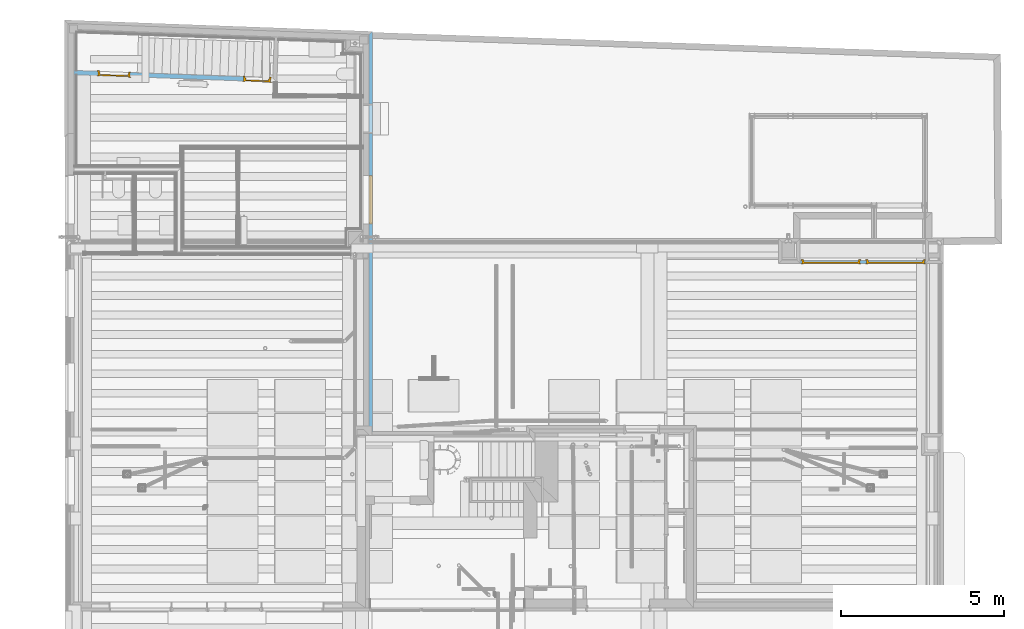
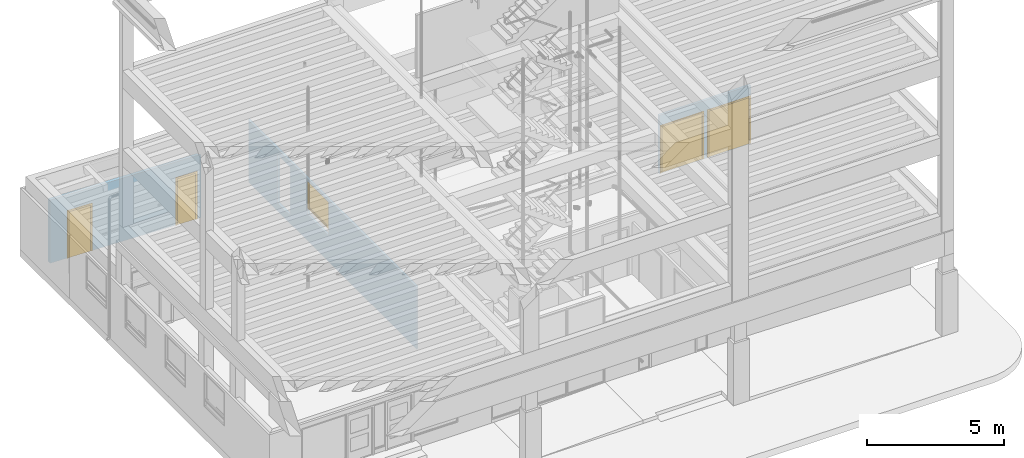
# One storey, part 24 of 106: 4 doors, 1 window, 6 openings, plus 3 elements that do not belong to this part.
"""IFC2X3 building model written with IfcOpenShell, lengths in metres."""

from ifc_helpers import new_model, entity, si_unit, converted_unit, derived_unit, money_unit, direction, frame, frame_2d, origin_with_axes, place, context, subcontext, project, spatial, polyline, rectangle, outline, extrude, faceted_brep, material, layer, layer_set, layer_usage, type_object, element, fill, save


model = new_model("IFC2X3")

# Units and contexts
model_context = context("Model", 3, precision=1e-05, world=origin_with_axes(), true_north=direction((0.0, 1.0)))
body_context = subcontext(model_context, "Body", "Model", "MODEL_VIEW", scale=1.0)
ifc_project = project(units=[si_unit("LENGTHUNIT", "METRE"), si_unit("AREAUNIT", "SQUARE_METRE"), si_unit("VOLUMEUNIT", "CUBIC_METRE"), si_unit("ABSORBEDDOSEUNIT", "GRAY"), si_unit("AMOUNTOFSUBSTANCEUNIT", "MOLE"), si_unit("DOSEEQUIVALENTUNIT", "SIEVERT"), si_unit("ELECTRICCAPACITANCEUNIT", "FARAD"), si_unit("ELECTRICCHARGEUNIT", "COULOMB"), si_unit("ELECTRICCONDUCTANCEUNIT", "SIEMENS"), si_unit("ELECTRICCURRENTUNIT", "AMPERE"), si_unit("ELECTRICRESISTANCEUNIT", "OHM"), si_unit("ELECTRICVOLTAGEUNIT", "VOLT"), si_unit("ENERGYUNIT", "JOULE"), si_unit("FORCEUNIT", "NEWTON"), si_unit("FREQUENCYUNIT", "HERTZ"), si_unit("ILLUMINANCEUNIT", "LUX"), si_unit("INDUCTANCEUNIT", "HENRY"), si_unit("LUMINOUSFLUXUNIT", "LUMEN"), si_unit("LUMINOUSINTENSITYUNIT", "CANDELA"), si_unit("MAGNETICFLUXDENSITYUNIT", "TESLA"), si_unit("MAGNETICFLUXUNIT", "WEBER"), si_unit("MASSUNIT", "GRAM"), converted_unit("PLANEANGLEUNIT", "degree", entity("IfcReal", 0.0174532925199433), si_unit("PLANEANGLEUNIT", "RADIAN"), dimensions=[0, 0, 0, 0, 0, 0, 0]), si_unit("POWERUNIT", "WATT"), si_unit("PRESSUREUNIT", "PASCAL"), si_unit("RADIOACTIVITYUNIT", "BECQUEREL"), si_unit("SOLIDANGLEUNIT", "STERADIAN"), si_unit("THERMODYNAMICTEMPERATUREUNIT", "KELVIN"), si_unit("TIMEUNIT", "SECOND"), derived_unit("ACCELERATIONUNIT", [(si_unit("LENGTHUNIT", "METRE"), 1), (si_unit("TIMEUNIT", "SECOND"), -2)]), derived_unit("ANGULARVELOCITYUNIT", [(converted_unit("PLANEANGLEUNIT", "degree", entity("IfcReal", 0.0174532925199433), si_unit("PLANEANGLEUNIT", "RADIAN"), dimensions=[0, 0, 0, 0, 0, 0, 0]), 1), (si_unit("TIMEUNIT", "SECOND"), -1)]), derived_unit("CURVATUREUNIT", [(converted_unit("PLANEANGLEUNIT", "degree", entity("IfcReal", 0.0174532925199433), si_unit("PLANEANGLEUNIT", "RADIAN"), dimensions=[0, 0, 0, 0, 0, 0, 0]), 1), (si_unit("LENGTHUNIT", "METRE"), -1)]), derived_unit("DYNAMICVISCOSITYUNIT", [(si_unit("PRESSUREUNIT", "PASCAL"), 1), (si_unit("TIMEUNIT", "SECOND"), 1)]), derived_unit("HEATFLUXDENSITYUNIT", [(si_unit("POWERUNIT", "WATT"), 1), (si_unit("LENGTHUNIT", "METRE"), -2)]), derived_unit("HEATINGVALUEUNIT", [(si_unit("ENERGYUNIT", "JOULE"), 1), (si_unit("MASSUNIT", "GRAM"), -1)]), derived_unit("INTEGERCOUNTRATEUNIT", [(si_unit("TIMEUNIT", "SECOND"), -1)]), derived_unit("IONCONCENTRATIONUNIT", [(si_unit("MASSUNIT", "GRAM"), 1), (si_unit("VOLUMEUNIT", "CUBIC_METRE"), -1)]), derived_unit("ISOTHERMALMOISTURECAPACITYUNIT", [(si_unit("VOLUMEUNIT", "CUBIC_METRE"), 1), (si_unit("MASSUNIT", "GRAM"), -1)]), derived_unit("KINEMATICVISCOSITYUNIT", [(si_unit("AREAUNIT", "SQUARE_METRE"), 1), (si_unit("TIMEUNIT", "SECOND"), -1)]), derived_unit("LINEARFORCEUNIT", [(si_unit("FORCEUNIT", "NEWTON"), 1), (si_unit("LENGTHUNIT", "METRE"), -1)]), derived_unit("LINEARMOMENTUNIT", [(si_unit("FORCEUNIT", "NEWTON"), 1), (si_unit("LENGTHUNIT", "METRE"), -1)]), derived_unit("LINEARSTIFFNESSUNIT", [(si_unit("FORCEUNIT", "NEWTON"), 1), (si_unit("LENGTHUNIT", "METRE"), -1)]), derived_unit("LINEARVELOCITYUNIT", [(si_unit("LENGTHUNIT", "METRE"), 1), (si_unit("TIMEUNIT", "SECOND"), -1)]), derived_unit("LUMINOUSINTENSITYDISTRIBUTIONUNIT", [(si_unit("LUMINOUSINTENSITYUNIT", "CANDELA"), 1), (si_unit("LUMINOUSFLUXUNIT", "LUMEN"), -1)]), derived_unit("MASSDENSITYUNIT", [(si_unit("MASSUNIT", "GRAM"), 1), (si_unit("VOLUMEUNIT", "CUBIC_METRE"), -1)]), derived_unit("MASSFLOWRATEUNIT", [(si_unit("MASSUNIT", "GRAM"), 1), (si_unit("TIMEUNIT", "SECOND"), -1)]), derived_unit("MASSPERLENGTHUNIT", [(si_unit("MASSUNIT", "GRAM"), 1), (si_unit("LENGTHUNIT", "METRE"), -1)]), derived_unit("MODULUSOFELASTICITYUNIT", [(si_unit("FORCEUNIT", "NEWTON"), 1), (si_unit("AREAUNIT", "SQUARE_METRE"), -1)]), derived_unit("MODULUSOFLINEARSUBGRADEREACTIONUNIT", [(si_unit("FORCEUNIT", "NEWTON"), 1), (si_unit("LENGTHUNIT", "METRE"), -2)]), derived_unit("MODULUSOFROTATIONALSUBGRADEREACTIONUNIT", [(si_unit("FORCEUNIT", "NEWTON"), 1), (si_unit("LENGTHUNIT", "METRE"), 1)]), derived_unit("MODULUSOFSUBGRADEREACTIONUNIT", [(si_unit("FORCEUNIT", "NEWTON"), 1), (si_unit("VOLUMEUNIT", "CUBIC_METRE"), -1)]), derived_unit("MOISTUREDIFFUSIVITYUNIT", [(si_unit("VOLUMEUNIT", "CUBIC_METRE"), 1), (si_unit("TIMEUNIT", "SECOND"), -1)]), derived_unit("MOLECULARWEIGHTUNIT", [(si_unit("MASSUNIT", "GRAM"), 1), (si_unit("AMOUNTOFSUBSTANCEUNIT", "MOLE"), -1)]), derived_unit("PLANARFORCEUNIT", [(si_unit("FORCEUNIT", "NEWTON"), 1), (si_unit("LENGTHUNIT", "METRE"), -2)]), derived_unit("ROTATIONALFREQUENCYUNIT", [(si_unit("TIMEUNIT", "SECOND"), -1)]), derived_unit("ROTATIONALMASSUNIT", [(si_unit("MASSUNIT", "GRAM"), 1), (si_unit("LENGTHUNIT", "METRE"), 2)]), derived_unit("ROTATIONALSTIFFNESSUNIT", [(si_unit("FORCEUNIT", "NEWTON"), 1), (si_unit("LENGTHUNIT", "METRE"), 1), (converted_unit("PLANEANGLEUNIT", "degree", entity("IfcReal", 0.0174532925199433), si_unit("PLANEANGLEUNIT", "RADIAN"), dimensions=[0, 0, 0, 0, 0, 0, 0]), -1)]), derived_unit("SECTIONAREAINTEGRALUNIT", [(si_unit("LENGTHUNIT", "METRE"), 5)]), derived_unit("SECTIONMODULUSUNIT", [(si_unit("LENGTHUNIT", "METRE"), 3)]), derived_unit("SHEARMODULUSUNIT", [(si_unit("FORCEUNIT", "NEWTON"), 1), (si_unit("AREAUNIT", "SQUARE_METRE"), -1)]), derived_unit("SOUNDPOWERUNIT", [(si_unit("ENERGYUNIT", "JOULE"), 1), (si_unit("TIMEUNIT", "SECOND"), -1)]), derived_unit("SPECIFICHEATCAPACITYUNIT", [(si_unit("FORCEUNIT", "NEWTON"), 1), (si_unit("MASSUNIT", "GRAM"), -1), (si_unit("THERMODYNAMICTEMPERATUREUNIT", "KELVIN"), -1)]), derived_unit("TEMPERATUREGRADIENTUNIT", [(si_unit("THERMODYNAMICTEMPERATUREUNIT", "KELVIN"), 1), (si_unit("LENGTHUNIT", "METRE"), -1)]), derived_unit("THERMALADMITTANCEUNIT", [(si_unit("POWERUNIT", "WATT"), 1), (si_unit("AREAUNIT", "SQUARE_METRE"), -1), (si_unit("THERMODYNAMICTEMPERATUREUNIT", "KELVIN"), -1)]), derived_unit("THERMALCONDUCTANCEUNIT", [(si_unit("POWERUNIT", "WATT"), 1), (si_unit("LENGTHUNIT", "METRE"), -1), (si_unit("THERMODYNAMICTEMPERATUREUNIT", "KELVIN"), -1)]), derived_unit("THERMALEXPANSIONCOEFFICIENTUNIT", [(si_unit("THERMODYNAMICTEMPERATUREUNIT", "KELVIN"), -1)]), derived_unit("THERMALRESISTANCEUNIT", [(si_unit("AREAUNIT", "SQUARE_METRE"), 1), (si_unit("POWERUNIT", "WATT"), -1)]), derived_unit("THERMALTRANSMITTANCEUNIT", [(si_unit("POWERUNIT", "WATT"), 1), (si_unit("AREAUNIT", "SQUARE_METRE"), -1), (si_unit("THERMODYNAMICTEMPERATUREUNIT", "KELVIN"), -1)]), derived_unit("TORQUEUNIT", [(si_unit("FORCEUNIT", "NEWTON"), 1), (si_unit("LENGTHUNIT", "METRE"), 1)]), derived_unit("VAPORPERMEABILITYUNIT", [(si_unit("MASSUNIT", "GRAM"), 1), (si_unit("TIMEUNIT", "SECOND"), -1)]), derived_unit("VOLUMETRICFLOWRATEUNIT", [(si_unit("VOLUMEUNIT", "CUBIC_METRE"), 1), (si_unit("TIMEUNIT", "SECOND"), -1)]), derived_unit("WARPINGCONSTANTUNIT", [(si_unit("LENGTHUNIT", "METRE"), 6)]), derived_unit("WARPINGMOMENTUNIT", [(si_unit("FORCEUNIT", "NEWTON"), 1), (si_unit("LENGTHUNIT", "METRE"), 2)]), money_unit("GBP")], contexts=[model_context])

# Site, building, storey
site_placement = place(None, origin_with_axes())
site = spatial("IfcSite", under=ifc_project, at=site_placement, Name="Site", CompositionType="ELEMENT")
building_placement = place(site_placement, origin_with_axes())
building = spatial("IfcBuilding", under=site, at=building_placement, Name="Building01", CompositionType="ELEMENT")
storey_placement = place(building_placement, origin_with_axes())
storey = spatial("IfcBuildingStorey", under=building, at=storey_placement, Name="GF", CompositionType="ELEMENT", Elevation=0.0)

# Wall, openings
ifc_material_1 = material(Name="A_BSUK_WallsExternal_Brick")
ifc_layer_1 = layer(ifc_material_1, 0.1, ventilated=False)
ifc_layer_set_1 = layer_set([ifc_layer_1])
ifc_layer_usage_1 = layer_usage(ifc_layer_set_1, "AXIS2", "POSITIVE", 0.0)
wall_type_1 = type_object("IfcWallType", Name="A-Walls-ExternalBrick", PredefinedType="NOTDEFINED")
wall_1_placement = place(storey_placement, frame((9.443038, 8.971523, -0.16), z_axis=(0.0, 0.0, 1.0), x_axis=(3.756e-05, 1.0, 0.0)))
wall_1 = element("IfcWallStandardCase", 1, at=wall_1_placement, inside=storey, type_object=wall_type_1, material=ifc_layer_usage_1, Name="A-Walls-ExternalBrick", ObjectType="A-Walls-ExternalBrick", context=body_context, shape_type="SweptSolid", body=[
    extrude(outline(polyline([(12.194522, 0.1), (-0.1, 0.1), (0.0, 0.0), (12.290885, 0.0), (12.194522, 0.1)])), origin_with_axes(), (0.0, 0.0, 1.0), 2.76),
])
opening_1_placement = place(wall_1_placement, frame((6.373286, 0.0, 1.158), z_axis=(0.0, 0.0, 1.0), x_axis=(1.0, 0.0, 0.0)))
opening_1 = element("IfcOpeningElement", 2, at=opening_1_placement, cuts=wall_1, Name="Opening", ObjectType="Opening", context=body_context, shape_type="Brep", body=[
    faceted_brep([(0.0, 0.1, 1.5), (1.5, 0.1, 1.5), (1.5, 0.1, 0.0), (0.0, 0.1, 0.0), (1.500004, 0.0, 1.5), (4e-06, 0.0, 1.5), (1.500004, 0.0, 0.0), (4e-06, 0.0, 0.0)], [[[0, 1, 2, 3]], [[4, 1, 0, 5]], [[6, 2, 1, 4]], [[5, 0, 3, 7]], [[4, 5, 7, 6]], [[7, 3, 2, 6]]]),
])
opening_2_placement = place(wall_1_placement, frame((9.152581, 0.0, 0.358), z_axis=(0.0, 0.0, 1.0), x_axis=(1.0, 0.0, 0.0)))
element("IfcOpeningElement", 3, at=opening_2_placement, cuts=wall_1, Name="Opening", ObjectType="Opening", context=body_context, shape_type="Brep", body=[
    faceted_brep([(0.0, 0.1, 2.142), (0.909, 0.1, 2.142), (0.909, 0.1, 0.0), (0.0, 0.1, 0.0), (0.909004, 0.0, 2.142), (4e-06, 0.0, 2.142), (0.909004, 0.0, 0.0), (4e-06, 0.0, 0.0)], [[[0, 1, 2, 3]], [[4, 1, 0, 5]], [[6, 2, 1, 4]], [[7, 3, 2, 6]], [[5, 0, 3, 7]], [[4, 5, 7, 6]]]),
])

# Space
space_1_placement = place(storey_placement, frame((12.311434, 15.867846, 0.0), z_axis=(0.0, 0.0, 1.0), x_axis=(0.0, 1.0, 0.0)))
space_1 = spatial("IfcSpace", under=storey, at=space_1_placement, Name="1", CompositionType="ELEMENT", InteriorOrExteriorSpace="NOTDEFINED")

# Window
ifc_material_2 = material(Name="A_BSUK_Windows")
window_style = type_object("IfcWindowStyle", Name="A-Awning", ConstructionType="NOTDEFINED", OperationType="USERDEFINED", ParameterTakesPrecedence=False, Sizeable=False)
window_placement = place(opening_1_placement, frame((-1e-06, 0.125344, 0.3), z_axis=(0.0, 0.0, 1.0), x_axis=(-1.0, -3.756e-05, 0.0)))
window = element("IfcWindow", 4, at=window_placement, inside=space_1, type_object=window_style, material=ifc_material_2, Name="0.08", ObjectType="A-Awning", OverallHeight=1.20000000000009, OverallWidth=1.5000000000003, context=body_context, shape_type="Brep", body=[
    faceted_brep([(-1.458, 0.0254, 0.042), (-0.042, 0.0254, 0.042), (-0.042, 0.1254, 0.042), (-1.458, 0.1254, 0.042), (-1.458, 0.0254, 1.158), (-1.458, 0.1254, 1.158), (-0.042, 0.0254, 1.158), (-0.042, 0.1254, 1.158), (0.0, 0.0254, 0.0), (0.0, 0.0254, 1.2), (-1.5, 0.0254, 1.2), (-1.5, 0.0254, 0.0), (0.0, 0.1254, 1.2), (-1.5, 0.1254, 1.2), (-1.5, 0.1254, 0.0), (0.0, 0.1254, 0.0)], [[[0, 1, 2, 3]], [[4, 0, 3, 5]], [[6, 4, 5, 7]], [[8, 9, 10, 11], [4, 6, 1, 0]], [[1, 6, 7, 2]], [[12, 13, 10, 9]], [[14, 15, 8, 11]], [[13, 14, 11, 10]], [[13, 12, 15, 14], [2, 7, 5, 3]], [[15, 12, 9, 8]]]),
    faceted_brep([(-1.4072, 0.0354, 0.0928), (-0.0928, 0.0354, 0.0928), (-0.0928, 0.0704, 0.0928), (-1.4072, 0.0704, 0.0928), (-1.4072, 0.0354, 1.1072), (-1.4072, 0.0704, 1.1072), (-0.0928, 0.0354, 1.1072), (-0.0928, 0.0704, 1.1072), (-1.458, 0.0704, 1.158), (-0.042, 0.0704, 1.158), (-0.042, 0.0704, 0.042), (-1.458, 0.0704, 0.042), (-1.458, 0.0354, 1.158), (-0.042, 0.0354, 1.158), (-0.042, 0.0354, 0.042), (-1.458, 0.0354, 0.042)], [[[0, 1, 2, 3]], [[4, 0, 3, 5]], [[6, 4, 5, 7]], [[8, 9, 10, 11], [2, 7, 5, 3]], [[9, 8, 12, 13]], [[10, 9, 13, 14]], [[11, 10, 14, 15]], [[8, 11, 15, 12]], [[14, 13, 12, 15], [4, 6, 1, 0]], [[1, 6, 7, 2]]]),
    faceted_brep([(-0.0928, 0.049725, 0.0928), (-0.0928, 0.056075, 0.0928), (-0.0928, 0.056075, 1.1072), (-0.0928, 0.049725, 1.1072), (-1.4072, 0.049725, 1.1072), (-1.4072, 0.056075, 1.1072), (-1.4072, 0.056075, 0.0928), (-1.4072, 0.049725, 0.0928)], [[[0, 1, 2, 3]], [[4, 5, 6, 7]], [[3, 2, 5, 4]], [[3, 4, 7, 0]], [[7, 6, 1, 0]], [[1, 6, 5, 2]]]),
])

fill(opening_1, window)

# Wall, openings
wall_2_placement = place(storey_placement, frame((22.577154, 14.134271, -0.16), z_axis=(0.0, 0.0, 1.0), x_axis=(1.0, -3.756e-05, 0.0)))
wall_2 = element("IfcWallStandardCase", 5, at=wall_2_placement, inside=storey, type_object=wall_type_1, material=ifc_layer_usage_1, Name="A-Walls-ExternalBrick", ObjectType="A-Walls-ExternalBrick", context=body_context, shape_type="SweptSolid", body=[
    extrude(outline(polyline([(3.85257, 0.1), (-0.000706, 0.1), (0.0, 0.0), (3.852568, 0.0), (3.85257, 0.1)])), origin_with_axes(), (0.0, 0.0, 1.0), 2.6),
])
opening_3_placement = place(wall_2_placement, frame((0.057998, 0.0, 0.023), z_axis=(0.0, 0.0, 1.0), x_axis=(1.0, 0.0, 0.0)))
opening_3 = element("IfcOpeningElement", 6, at=opening_3_placement, cuts=wall_2, Name="Opening", ObjectType="Opening", context=body_context, shape_type="SweptSolid", body=[
    extrude(rectangle(XDim=2.1, YDim=1.784, at=frame_2d((-0.892, 1.05), x_axis=(0.0, -1.0))), frame((0.0, 0.0, 0.0), z_axis=(0.0, 1.0, 0.0), x_axis=(-1.0, 0.0, 0.0)), (0.0, 0.0, 1.0), 0.1),
])
opening_4_placement = place(wall_2_placement, frame((2.043034, 0.0, 0.023), z_axis=(0.0, 0.0, 1.0), x_axis=(1.0, 0.0, 0.0)))
opening_4 = element("IfcOpeningElement", 7, at=opening_4_placement, cuts=wall_2, Name="Opening", ObjectType="Opening", context=body_context, shape_type="SweptSolid", body=[
    extrude(rectangle(XDim=2.1, YDim=1.784, at=frame_2d((-0.892, 1.05), x_axis=(0.0, -1.0))), frame((0.0, 0.0, 0.0), z_axis=(0.0, 1.0, 0.0), x_axis=(-1.0, 0.0, 0.0)), (0.0, 0.0, 1.0), 0.1),
])

# Space
space_2_placement = place(storey_placement, frame((21.91816, 14.897172, 0.0), z_axis=(0.0, 0.0, 1.0), x_axis=(-1.0, 0.0, 0.0)))
space_2 = spatial("IfcSpace", under=storey, at=space_2_placement, Name="UNDERCROFT (back)", CompositionType="ELEMENT", InteriorOrExteriorSpace="NOTDEFINED")

# Door
ifc_material_3 = material(Name="A_BSUK_Doors")
door_style_1 = type_object("IfcDoorStyle", Name="A-Doors-DoubleFlush", ConstructionType="USERDEFINED", OperationType="DOUBLE_DOOR_SINGLE_SWING", ParameterTakesPrecedence=False, Sizeable=False)
door_1_placement = place(opening_3_placement, frame((1.742, -1e-06, 0.0), z_axis=(0.0, 0.0, 1.0), x_axis=(-1.0, 0.0, 0.0)))
door_1 = element("IfcDoor", 8, at=door_1_placement, inside=space_2, type_object=door_style_1, material=ifc_material_3, Name="0.02", ObjectType="A-Doors-DoubleFlush", OverallHeight=2.1, OverallWidth=1.784, context=body_context, shape_type="Brep", body=[
    faceted_brep([(0.0, -0.119, 2.058), (1.7, -0.119, 2.058), (1.7, -0.119, 0.0), (1.769, -0.119, 0.0), (1.769, -0.119, 2.127), (-0.069, -0.119, 2.127), (-0.069, -0.119, 0.0), (0.0, -0.119, 0.0), (1.769, -0.1, 2.127), (1.769, -0.1, 0.0), (-0.069, -0.1, 0.0), (-0.069, -0.1, 2.127), (-0.042, -0.1, 0.0), (-0.042, 0.0, 0.0), (-0.069, 0.0, 0.0), (-0.069, 0.019, 0.0), (0.0, 0.019, 0.0), (0.0, 0.019, 2.058), (1.7, 0.019, 2.058), (-0.069, 0.019, 2.127), (1.769, 0.019, 2.127), (1.769, 0.019, 0.0), (1.7, 0.019, 0.0), (-0.069, 0.0, 2.127), (-0.042, 0.0, 2.1), (-0.042, -0.1, 2.1), (1.742, 0.0, 2.1), (1.742, -0.1, 2.1), (1.742, -0.1, 0.0), (1.742, 0.0, 0.0), (1.769, 0.0, 0.0), (1.769, 0.0, 2.127)], [[[0, 1, 2, 3, 4, 5, 6, 7]], [[8, 4, 3, 9]], [[10, 6, 5, 11]], [[11, 5, 4, 8]], [[7, 6, 10, 12, 13, 14, 15, 16]], [[7, 16, 17, 0]], [[0, 17, 18, 1]], [[17, 16, 15, 19, 20, 21, 22, 18]], [[1, 18, 22, 2]], [[14, 23, 19, 15]], [[24, 13, 12, 25]], [[26, 24, 25, 27]], [[11, 8, 9, 28, 27, 25, 12, 10]], [[27, 28, 29, 26]], [[26, 29, 30, 31, 23, 14, 13, 24]], [[22, 21, 30, 29, 28, 9, 3, 2]], [[30, 21, 20, 31]], [[31, 20, 19, 23]]]),
    faceted_brep([(1.7, -0.09, 0.0), (1.7, -0.04, 0.0), (1.7, -0.04, 2.058), (1.7, -0.09, 2.058), (0.025, -0.09, 2.033), (1.675, -0.09, 2.033), (1.675, -0.09, 0.0), (0.0, -0.09, 2.058), (0.0, -0.09, 0.0), (0.025, -0.09, 0.0), (0.0, -0.04, 0.0), (0.025, -0.04, 0.0), (0.0, -0.04, 2.058), (0.025, -0.04, 2.033), (1.675, -0.04, 0.0), (1.675, -0.04, 2.033)], [[[0, 1, 2, 3]], [[4, 5, 6, 0, 3, 7, 8, 9]], [[9, 8, 10, 11]], [[3, 2, 12, 7]], [[7, 12, 10, 8]], [[13, 11, 10, 12, 2, 1, 14, 15]], [[5, 15, 14, 6]], [[14, 1, 0, 6]], [[9, 11, 13, 4]], [[4, 13, 15, 5]]]),
    faceted_brep([(0.0, -0.04, 2.058), (0.0, 0.0, 2.058), (0.0, 0.0, 0.0), (0.0, -0.04, 0.0), (0.85, -0.04, 0.0), (0.85, 0.0, 0.0), (0.85, 0.0, 2.058), (0.85, -0.04, 2.058)], [[[0, 1, 2, 3]], [[4, 5, 6, 7]], [[3, 2, 5, 4]], [[3, 4, 7, 0]], [[7, 6, 1, 0]], [[1, 6, 5, 2]]]),
    faceted_brep([(0.85, -0.04, 2.058), (0.85, 0.0, 2.058), (0.85, 0.0, 0.0), (0.85, -0.04, 0.0), (1.7, -0.04, 0.0), (1.7, 0.0, 0.0), (1.7, 0.0, 2.058), (1.7, -0.04, 2.058)], [[[0, 1, 2, 3]], [[4, 5, 6, 7]], [[3, 2, 5, 4]], [[3, 4, 7, 0]], [[7, 6, 1, 0]], [[1, 6, 5, 2]]]),
])

fill(opening_3, door_1)

door_2_placement = place(opening_4_placement, frame((1.742, 7.4e-05, 0.0), z_axis=(0.0, 0.0, 1.0), x_axis=(-1.0, 0.0, 0.0)))
door_2 = element("IfcDoor", 9, at=door_2_placement, inside=space_2, type_object=door_style_1, material=ifc_material_3, Name="0.03", ObjectType="A-Doors-DoubleFlush", OverallHeight=2.1, OverallWidth=1.78400000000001, context=body_context, shape_type="Brep", body=[
    faceted_brep([(0.0, -0.119, 2.058), (1.7, -0.119, 2.058), (1.7, -0.119, 0.0), (1.769, -0.119, 0.0), (1.769, -0.119, 2.127), (-0.069, -0.119, 2.127), (-0.069, -0.119, 0.0), (0.0, -0.119, 0.0), (1.769, -0.1, 2.127), (1.769, -0.1, 0.0), (-0.069, -0.1, 0.0), (-0.069, -0.1, 2.127), (-0.042, -0.1, 0.0), (-0.042, 0.0, 0.0), (-0.069, 0.0, 0.0), (-0.069, 0.019, 0.0), (0.0, 0.019, 0.0), (0.0, 0.019, 2.058), (1.7, 0.019, 2.058), (-0.069, 0.019, 2.127), (1.769, 0.019, 2.127), (1.769, 0.019, 0.0), (1.7, 0.019, 0.0), (-0.069, 0.0, 2.127), (-0.042, 0.0, 2.1), (-0.042, -0.1, 2.1), (1.742, 0.0, 2.1), (1.742, -0.1, 2.1), (1.742, -0.1, 0.0), (1.742, 0.0, 0.0), (1.769, 0.0, 0.0), (1.769, 0.0, 2.127)], [[[0, 1, 2, 3, 4, 5, 6, 7]], [[8, 4, 3, 9]], [[10, 6, 5, 11]], [[11, 5, 4, 8]], [[7, 6, 10, 12, 13, 14, 15, 16]], [[7, 16, 17, 0]], [[0, 17, 18, 1]], [[17, 16, 15, 19, 20, 21, 22, 18]], [[1, 18, 22, 2]], [[14, 23, 19, 15]], [[24, 13, 12, 25]], [[26, 24, 25, 27]], [[11, 8, 9, 28, 27, 25, 12, 10]], [[27, 28, 29, 26]], [[26, 29, 30, 31, 23, 14, 13, 24]], [[22, 21, 30, 29, 28, 9, 3, 2]], [[30, 21, 20, 31]], [[31, 20, 19, 23]]]),
    faceted_brep([(1.7, -0.09, 0.0), (1.7, -0.04, 0.0), (1.7, -0.04, 2.058), (1.7, -0.09, 2.058), (0.025, -0.09, 2.033), (1.675, -0.09, 2.033), (1.675, -0.09, 0.0), (0.0, -0.09, 2.058), (0.0, -0.09, 0.0), (0.025, -0.09, 0.0), (0.0, -0.04, 0.0), (0.025, -0.04, 0.0), (0.0, -0.04, 2.058), (0.025, -0.04, 2.033), (1.675, -0.04, 0.0), (1.675, -0.04, 2.033)], [[[0, 1, 2, 3]], [[4, 5, 6, 0, 3, 7, 8, 9]], [[9, 8, 10, 11]], [[3, 2, 12, 7]], [[7, 12, 10, 8]], [[13, 11, 10, 12, 2, 1, 14, 15]], [[5, 15, 14, 6]], [[14, 1, 0, 6]], [[9, 11, 13, 4]], [[4, 13, 15, 5]]]),
    faceted_brep([(0.0, -0.04, 2.058), (0.0, 0.0, 2.058), (0.0, 0.0, 0.0), (0.0, -0.04, 0.0), (0.85, -0.04, 0.0), (0.85, 0.0, 0.0), (0.85, 0.0, 2.058), (0.85, -0.04, 2.058)], [[[0, 1, 2, 3]], [[4, 5, 6, 7]], [[3, 2, 5, 4]], [[3, 4, 7, 0]], [[7, 6, 1, 0]], [[1, 6, 5, 2]]]),
    faceted_brep([(0.85, -0.04, 2.058), (0.85, 0.0, 2.058), (0.85, 0.0, 0.0), (0.85, -0.04, 0.0), (1.7, -0.04, 0.0), (1.7, 0.0, 0.0), (1.7, 0.0, 2.058), (1.7, -0.04, 2.058)], [[[0, 1, 2, 3]], [[4, 5, 6, 7]], [[3, 2, 5, 4]], [[3, 4, 7, 0]], [[7, 6, 1, 0]], [[1, 6, 5, 2]]]),
])

fill(opening_4, door_2)

# Wall, openings
ifc_material_4 = material(Name="A_BSUK_WallsInternal_Block")
ifc_layer_2 = layer(ifc_material_4, 0.131, ventilated=False)
ifc_layer_set_2 = layer_set([ifc_layer_2])
ifc_layer_usage_2 = layer_usage(ifc_layer_set_2, "AXIS2", "POSITIVE", 0.0)
wall_type_2 = type_object("IfcWallType", Name="A-Walls-InternalBlock", PredefinedType="NOTDEFINED")
wall_3_placement = place(storey_placement, frame((6.383485, 19.838621, 0.148), z_axis=(0.0, 0.0, 1.0), x_axis=(-0.99931641, 0.03696906, 0.0)))
wall_3 = element("IfcWallStandardCase", 10, at=wall_3_placement, inside=storey, type_object=wall_type_2, material=ifc_layer_usage_2, Name="A-Walls-InternalBlock", ObjectType="A-Walls-InternalBlock", context=body_context, shape_type="SweptSolid", body=[
    extrude(outline(polyline([(6.101916, 0.131), (-0.131696, 0.131), (0.0, 0.0), (6.106763, 0.0), (6.101916, 0.131)])), origin_with_axes(), (0.0, 0.0, 1.0), 2.812),
])
opening_5_placement = place(wall_3_placement, frame((4.38669, 0.0, 0.0), z_axis=(0.0, 0.0, 1.0), x_axis=(1.0, 0.0, 0.0)))
opening_5 = element("IfcOpeningElement", 11, at=opening_5_placement, cuts=wall_3, Name="Opening", ObjectType="Opening", context=body_context, shape_type="SweptSolid", body=[
    extrude(rectangle(XDim=2.1, YDim=0.984, at=frame_2d((-0.492, 1.05), x_axis=(0.0, -1.0))), frame((0.0, 0.0, 0.0), z_axis=(0.0, 1.0, 0.0), x_axis=(-1.0, 0.0, 0.0)), (0.0, 0.0, 1.0), 0.131),
])
opening_6_placement = place(wall_3_placement, frame((0.061318, 0.0, 0.0), z_axis=(0.0, 0.0, 1.0), x_axis=(1.0, 0.0, 0.0)))
opening_6 = element("IfcOpeningElement", 12, at=opening_6_placement, cuts=wall_3, Name="Opening", ObjectType="Opening", context=body_context, shape_type="SweptSolid", body=[
    extrude(rectangle(XDim=2.1, YDim=0.834, at=frame_2d((-0.417, 1.05), x_axis=(0.0, -1.0))), frame((0.0, 0.0, 0.0), z_axis=(0.0, 1.0, 0.0), x_axis=(-1.0, 0.0, 0.0)), (0.0, 0.0, 1.0), 0.131),
])

# Space
space_3_placement = place(storey_placement, frame((8.552822, 20.936203, 0.217025), z_axis=(0.0, 0.0, 1.0), x_axis=(-0.99931258, 0.03707243, 0.0)))
space_3 = spatial("IfcSpace", under=storey, at=space_3_placement, Name="01", CompositionType="ELEMENT", InteriorOrExteriorSpace="NOTDEFINED")

# Door
door_style_2 = type_object("IfcDoorStyle", Name="A-Doors-SingleFlush", ConstructionType="USERDEFINED", OperationType="SINGLE_SWING_RIGHT", ParameterTakesPrecedence=False, Sizeable=False)
door_3_placement = place(opening_5_placement, frame((0.042, 0.131045, 0.0), z_axis=(0.0, 0.0, 1.0), x_axis=(1.0, 0.0, 0.0)))
door_3 = element("IfcDoor", 13, at=door_3_placement, inside=space_3, type_object=door_style_2, material=ifc_material_3, Name="0.09", ObjectType="A-Doors-SingleFlush", OverallHeight=2.1, OverallWidth=0.984000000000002, context=body_context, shape_type="Brep", body=[
    faceted_brep([(0.9, -0.15, 0.0), (0.969, -0.15, 0.0), (0.969, -0.15, 2.127), (-0.069, -0.15, 2.127), (-0.069, -0.15, 0.0), (0.0, -0.15, 0.0), (0.0, -0.15, 2.058), (0.9, -0.15, 2.058), (-0.069, -0.131, 0.0), (-0.069, -0.131, 2.127), (0.969, -0.131, 2.127), (0.969, -0.131, 0.0), (0.9, 0.019, 0.0), (0.969, 0.019, 0.0), (0.969, 0.0, 0.0), (0.942, 0.0, 0.0), (0.942, -0.131, 0.0), (0.9, 0.019, 2.058), (0.0, 0.019, 2.058), (0.0, 0.019, 0.0), (-0.069, 0.019, 0.0), (-0.069, 0.019, 2.127), (0.969, 0.019, 2.127), (0.969, 0.0, 2.127), (0.942, -0.131, 2.1), (0.942, 0.0, 2.1), (-0.042, -0.131, 2.1), (-0.042, 0.0, 2.1), (-0.042, -0.131, 0.0), (-0.042, 0.0, 0.0), (-0.069, 0.0, 2.127), (-0.069, 0.0, 0.0)], [[[0, 1, 2, 3, 4, 5, 6, 7]], [[8, 4, 3, 9]], [[10, 2, 1, 11]], [[9, 3, 2, 10]], [[12, 13, 14, 15, 16, 11, 1, 0]], [[7, 17, 12, 0]], [[6, 18, 17, 7]], [[18, 19, 20, 21, 22, 13, 12, 17]], [[5, 19, 18, 6]], [[13, 22, 23, 14]], [[24, 16, 15, 25]], [[26, 24, 25, 27]], [[11, 16, 24, 26, 28, 8, 9, 10]], [[27, 29, 28, 26]], [[25, 15, 14, 23, 30, 31, 29, 27]], [[5, 4, 8, 28, 29, 31, 20, 19]], [[30, 21, 20, 31]], [[23, 22, 21, 30]]]),
    faceted_brep([(0.0, -0.09, 2.058), (0.0, -0.04, 2.058), (0.0, -0.04, 0.0), (0.0, -0.09, 0.0), (0.875, -0.09, 0.0), (0.9, -0.09, 0.0), (0.9, -0.09, 2.058), (0.025, -0.09, 0.0), (0.025, -0.09, 2.033), (0.875, -0.09, 2.033), (0.875, -0.04, 0.0), (0.9, -0.04, 0.0), (0.9, -0.04, 2.058), (0.025, -0.04, 2.033), (0.025, -0.04, 0.0), (0.875, -0.04, 2.033)], [[[0, 1, 2, 3]], [[4, 5, 6, 0, 3, 7, 8, 9]], [[10, 11, 5, 4]], [[6, 12, 1, 0]], [[5, 11, 12, 6]], [[13, 14, 2, 1, 12, 11, 10, 15]], [[7, 14, 13, 8]], [[7, 3, 2, 14]], [[9, 15, 10, 4]], [[8, 13, 15, 9]]]),
    faceted_brep([(0.9, -0.04, 0.0), (0.9, 0.0, 0.0), (0.9, 0.0, 2.058), (0.9, -0.04, 2.058), (0.0, -0.04, 2.058), (0.0, 0.0, 2.058), (0.0, 0.0, 0.0), (0.0, -0.04, 0.0)], [[[0, 1, 2, 3]], [[4, 5, 6, 7]], [[7, 6, 1, 0]], [[3, 4, 7, 0]], [[3, 2, 5, 4]], [[1, 6, 5, 2]]]),
])

fill(opening_5, door_3)

door_4_placement = place(opening_6_placement, frame((0.042, 0.131045, 0.0), z_axis=(0.0, 0.0, 1.0), x_axis=(1.0, 0.0, 0.0)))
door_4 = element("IfcDoor", 14, at=door_4_placement, inside=space_3, type_object=door_style_2, material=ifc_material_3, Name="0.10", ObjectType="A-Doors-SingleFlush", OverallHeight=2.1, OverallWidth=0.834000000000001, context=body_context, shape_type="Brep", body=[
    faceted_brep([(0.75, -0.15, 0.0), (0.819, -0.15, 0.0), (0.819, -0.15, 2.127), (-0.069, -0.15, 2.127), (-0.069, -0.15, 0.0), (0.0, -0.15, 0.0), (0.0, -0.15, 2.058), (0.75, -0.15, 2.058), (-0.069, -0.131, 0.0), (-0.069, -0.131, 2.127), (0.819, -0.131, 2.127), (0.819, -0.131, 0.0), (0.75, 0.019, 0.0), (0.819, 0.019, 0.0), (0.819, 0.0, 0.0), (0.792, 0.0, 0.0), (0.792, -0.131, 0.0), (0.75, 0.019, 2.058), (0.0, 0.019, 2.058), (0.0, 0.019, 0.0), (-0.069, 0.019, 0.0), (-0.069, 0.019, 2.127), (0.819, 0.019, 2.127), (0.819, 0.0, 2.127), (0.792, -0.131, 2.1), (0.792, 0.0, 2.1), (-0.042, -0.131, 2.1), (-0.042, 0.0, 2.1), (-0.042, -0.131, 0.0), (-0.042, 0.0, 0.0), (-0.069, 0.0, 2.127), (-0.069, 0.0, 0.0)], [[[0, 1, 2, 3, 4, 5, 6, 7]], [[8, 4, 3, 9]], [[10, 2, 1, 11]], [[9, 3, 2, 10]], [[12, 13, 14, 15, 16, 11, 1, 0]], [[7, 17, 12, 0]], [[6, 18, 17, 7]], [[18, 19, 20, 21, 22, 13, 12, 17]], [[5, 19, 18, 6]], [[13, 22, 23, 14]], [[24, 16, 15, 25]], [[26, 24, 25, 27]], [[11, 16, 24, 26, 28, 8, 9, 10]], [[27, 29, 28, 26]], [[25, 15, 14, 23, 30, 31, 29, 27]], [[5, 4, 8, 28, 29, 31, 20, 19]], [[30, 21, 20, 31]], [[23, 22, 21, 30]]]),
    faceted_brep([(0.0, -0.09, 2.058), (0.0, -0.04, 2.058), (0.0, -0.04, 0.0), (0.0, -0.09, 0.0), (0.725, -0.09, 0.0), (0.75, -0.09, 0.0), (0.75, -0.09, 2.058), (0.025, -0.09, 0.0), (0.025, -0.09, 2.033), (0.725, -0.09, 2.033), (0.725, -0.04, 0.0), (0.75, -0.04, 0.0), (0.75, -0.04, 2.058), (0.025, -0.04, 2.033), (0.025, -0.04, 0.0), (0.725, -0.04, 2.033)], [[[0, 1, 2, 3]], [[4, 5, 6, 0, 3, 7, 8, 9]], [[10, 11, 5, 4]], [[6, 12, 1, 0]], [[5, 11, 12, 6]], [[13, 14, 2, 1, 12, 11, 10, 15]], [[7, 14, 13, 8]], [[7, 3, 2, 14]], [[9, 15, 10, 4]], [[8, 13, 15, 9]]]),
    faceted_brep([(0.75, -0.04, 0.0), (0.75, 0.0, 0.0), (0.75, 0.0, 2.058), (0.75, -0.04, 2.058), (0.0, -0.04, 2.058), (0.0, 0.0, 2.058), (0.0, 0.0, 0.0), (0.0, -0.04, 0.0)], [[[0, 1, 2, 3]], [[4, 5, 6, 7]], [[7, 6, 1, 0]], [[3, 4, 7, 0]], [[3, 2, 5, 4]], [[1, 6, 5, 2]]]),
])

fill(opening_6, door_4)

save(model, "model.ifc")
